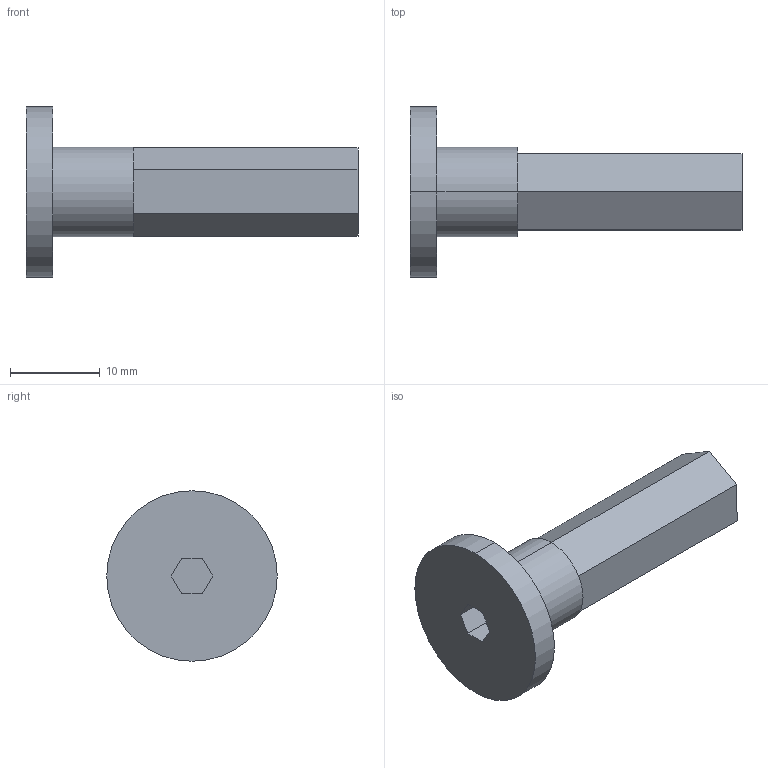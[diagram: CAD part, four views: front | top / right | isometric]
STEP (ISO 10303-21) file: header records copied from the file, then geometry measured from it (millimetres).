
FILE_DESCRIPTION (( 'STEP AP203' ), '1' );
FILE_NAME ('Wheel Connector.STEP', '2026-01-17T21:10:54', ( '' ), ( '' ), 'SwSTEP 2.0', 'SolidWorks 2026', '' );
FILE_SCHEMA (( 'CONFIG_CONTROL_DESIGN' ));
Length unit declared in the file: millimetre
Products named in the file (1): Wheel Connector
Bounding box: 37 x 19 x 19 mm (x, y, z)
Volume: 2738.8 mm3; surface area: 2175.4 mm2
Topology: 1 solids, 1 shells, 24 faces, 54 edges, 36 vertices
Faces by surface type: plane 18, cylinder 6
Entity records: 745 total; most frequent: DIRECTION 116, CARTESIAN_POINT 115, ORIENTED_EDGE 108, EDGE_CURVE 54, LINE 42, VECTOR 42, AXIS2_PLACEMENT_3D 37, VERTEX_POINT 36
